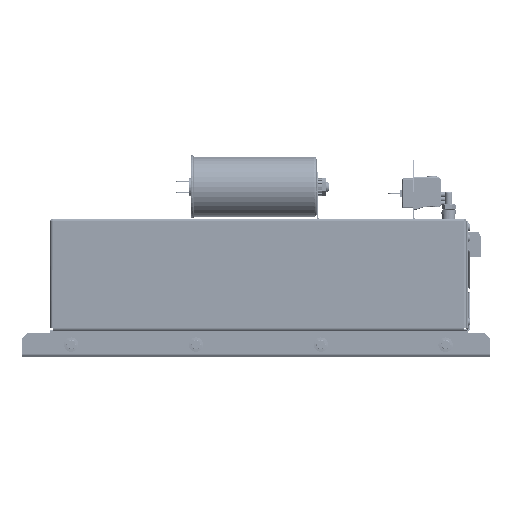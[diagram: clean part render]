
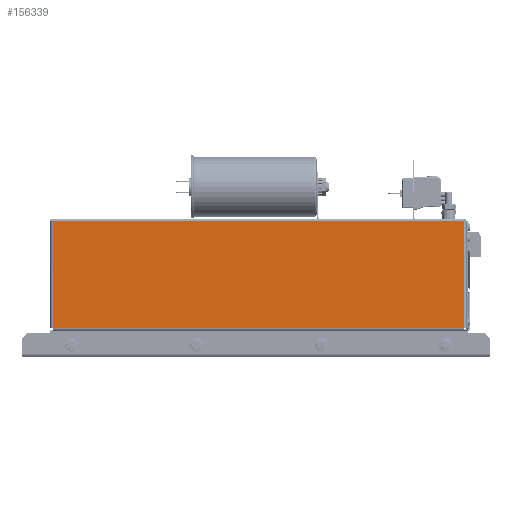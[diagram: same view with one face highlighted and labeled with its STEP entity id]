
A CAD part, left-side view. The second image highlights one B-rep face of the part: STEP entity #156339.
In plain terms, the highlighted planar face has unit normal (-1, 0, 0).
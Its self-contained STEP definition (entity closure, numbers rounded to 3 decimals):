
#5924=PLANE('',#172919);
#15343=FACE_OUTER_BOUND('',#24789,.T.);
#24789=EDGE_LOOP('',(#132599,#132600,#132601,#132602));
#45114=LINE('',#277549,#57272);
#45117=LINE('',#277558,#57275);
#45118=LINE('',#277562,#57276);
#45119=LINE('',#277563,#57277);
#57272=VECTOR('',#216371,10.);
#57275=VECTOR('',#216384,10.);
#57276=VECTOR('',#216389,10.);
#57277=VECTOR('',#216390,10.);
#70479=VERTEX_POINT('',#276402);
#70788=VERTEX_POINT('',#277381);
#70796=VERTEX_POINT('',#277543);
#70798=VERTEX_POINT('',#277561);
#91726=EDGE_CURVE('',#70788,#70796,#45114,.T.);
#91731=EDGE_CURVE('',#70796,#70479,#45117,.T.);
#91733=EDGE_CURVE('',#70788,#70798,#45118,.T.);
#91734=EDGE_CURVE('',#70798,#70479,#45119,.T.);
#132599=ORIENTED_EDGE('',*,*,#91726,.F.);
#132600=ORIENTED_EDGE('',*,*,#91733,.T.);
#132601=ORIENTED_EDGE('',*,*,#91734,.T.);
#132602=ORIENTED_EDGE('',*,*,#91731,.F.);
#156339=ADVANCED_FACE('',(#15343),#5924,.F.);
#172919=AXIS2_PLACEMENT_3D('',#277560,#216387,#216388);
#216371=DIRECTION('',(0.,0.,-1.));
#216384=DIRECTION('',(0.,1.,0.));
#216387=DIRECTION('center_axis',(1.,0.,0.));
#216388=DIRECTION('ref_axis',(0.,0.,
-1.));
#216389=DIRECTION('',(0.,1.,0.));
#216390=DIRECTION('',(0.,0.,-1.));
#276402=CARTESIAN_POINT('',(-100.143,156.38,8.776));
#277381=CARTESIAN_POINT('',(-100.143,-186.02,97.523));
#277543=CARTESIAN_POINT('',(-100.143,-186.02,8.776));
#277549=CARTESIAN_POINT('',(-100.143,-186.02,85.533));
#277558=CARTESIAN_POINT('',(-100.143,-188.32,8.776));
#277560=CARTESIAN_POINT('Origin',(-100.143,-188.32,7.823));
#277561=CARTESIAN_POINT('',(-100.143,156.38,97.523));
#277562=CARTESIAN_POINT('',(-100.143,158.68,97.523));
#277563=CARTESIAN_POINT('',(-100.143,156.38,46.673));
